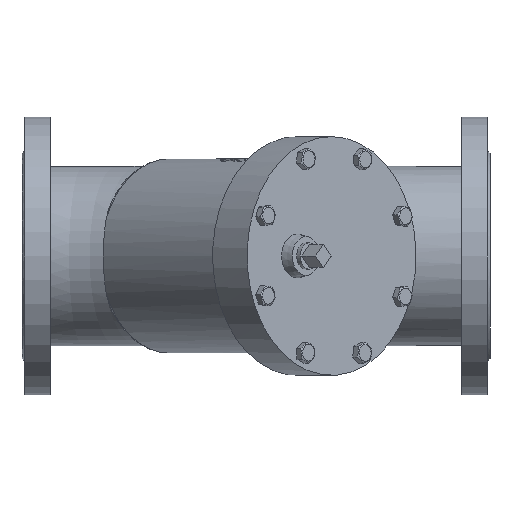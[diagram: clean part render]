
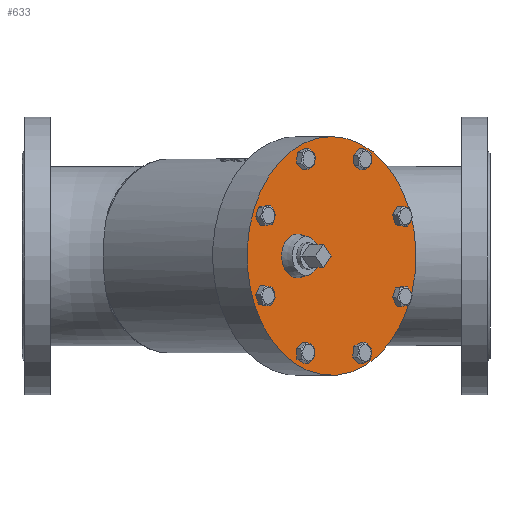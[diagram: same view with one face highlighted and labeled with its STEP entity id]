
A CAD part, front view. The second image highlights one B-rep face of the part: STEP entity #633.
In plain terms, the highlighted planar face has unit normal (0.707, -0.707, 0).
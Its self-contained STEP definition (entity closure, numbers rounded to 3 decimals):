
#633=ADVANCED_FACE('',(#9478,#9480,#9482,#9484,#9486,#9488,#9490,#9492,#9494,#9496),
#9498,.F.);
#9478=FACE_BOUND('',#9479,.T.);
#9479=EDGE_LOOP('',(#17220,#17221));
#9480=FACE_BOUND('',#9481,.T.);
#9481=EDGE_LOOP('',(#17222,#17223));
#9482=FACE_BOUND('',#9483,.T.);
#9483=EDGE_LOOP('',(#17224,#17225));
#9484=FACE_BOUND('',#9485,.T.);
#9485=EDGE_LOOP('',(#17226,#17227));
#9486=FACE_BOUND('',#9487,.T.);
#9487=EDGE_LOOP('',(#17228,#17229));
#9488=FACE_BOUND('',#9489,.T.);
#9489=EDGE_LOOP('',(#17230,#17231));
#9490=FACE_BOUND('',#9491,.T.);
#9491=EDGE_LOOP('',(#17232,#17233));
#9492=FACE_BOUND('',#9493,.T.);
#9493=EDGE_LOOP('',(#17234,#17235));
#9494=FACE_BOUND('',#9495,.T.);
#9495=EDGE_LOOP('',(#17236,#17237));
#9496=FACE_BOUND('',#9497,.T.);
#9497=EDGE_LOOP('',(#17238,#17239));
#9498=PLANE('',#9499);
#9499=AXIS2_PLACEMENT_3D('',#9500,#9501,#9502);
#9500=CARTESIAN_POINT('',(3272.315,1104.767,-101.));
#9501=DIRECTION('',(-0.707,0.707,0.));
#9502=DIRECTION('',(0.,0.,1.));
#17220=ORIENTED_EDGE('',*,*,#22687,.F.);
#17221=ORIENTED_EDGE('',*,*,#22686,.F.);
#17222=ORIENTED_EDGE('',*,*,#22819,.F.);
#17223=ORIENTED_EDGE('',*,*,#22820,.F.);
#17224=ORIENTED_EDGE('',*,*,#22821,.F.);
#17225=ORIENTED_EDGE('',*,*,#22822,.F.);
#17226=ORIENTED_EDGE('',*,*,#22823,.F.);
#17227=ORIENTED_EDGE('',*,*,#22824,.F.);
#17228=ORIENTED_EDGE('',*,*,#22777,.F.);
#17229=ORIENTED_EDGE('',*,*,#22778,.F.);
#17230=ORIENTED_EDGE('',*,*,#22748,.F.);
#17231=ORIENTED_EDGE('',*,*,#22749,.F.);
#17232=ORIENTED_EDGE('',*,*,#22719,.F.);
#17233=ORIENTED_EDGE('',*,*,#22720,.F.);
#17234=ORIENTED_EDGE('',*,*,#22690,.F.);
#17235=ORIENTED_EDGE('',*,*,#22691,.F.);
#17236=ORIENTED_EDGE('',*,*,#22825,.F.);
#17237=ORIENTED_EDGE('',*,*,#22826,.F.);
#17238=ORIENTED_EDGE('',*,*,#22827,.F.);
#17239=ORIENTED_EDGE('',*,*,#22828,.F.);
#22686=EDGE_CURVE('',#26389,#26390,#26391,.T.);
#22687=EDGE_CURVE('',#26390,#26389,#26392,.T.);
#22690=EDGE_CURVE('',#26397,#26398,#26399,.T.);
#22691=EDGE_CURVE('',#26398,#26397,#26400,.T.);
#22719=EDGE_CURVE('',#26449,#26450,#26451,.T.);
#22720=EDGE_CURVE('',#26450,#26449,#26452,.T.);
#22748=EDGE_CURVE('',#26501,#26502,#26503,.T.);
#22749=EDGE_CURVE('',#26502,#26501,#26504,.T.);
#22777=EDGE_CURVE('',#26553,#26554,#26555,.T.);
#22778=EDGE_CURVE('',#26554,#26553,#26556,.T.);
#22819=EDGE_CURVE('',#26627,#26628,#26629,.T.);
#22820=EDGE_CURVE('',#26628,#26627,#26630,.T.);
#22821=EDGE_CURVE('',#26631,#26632,#26633,.T.);
#22822=EDGE_CURVE('',#26632,#26631,#26634,.T.);
#22823=EDGE_CURVE('',#26635,#26636,#26637,.T.);
#22824=EDGE_CURVE('',#26636,#26635,#26638,.T.);
#22825=EDGE_CURVE('',#26639,#26640,#26641,.T.);
#22826=EDGE_CURVE('',#26640,#26639,#26642,.T.);
#22827=EDGE_CURVE('',#26643,#26644,#26645,.T.);
#22828=EDGE_CURVE('',#26644,#26643,#26646,.T.);
#26389=VERTEX_POINT('',#34353);
#26390=VERTEX_POINT('',#34354);
#26391=CIRCLE('',#34355,122.5);
#26392=CIRCLE('',#34359,122.5);
#26397=VERTEX_POINT('',#34373);
#26398=VERTEX_POINT('',#34374);
#26399=CIRCLE('',#34375,7.684);
#26400=CIRCLE('',#34379,7.684);
#26449=VERTEX_POINT('',#34732);
#26450=VERTEX_POINT('',#34733);
#26451=CIRCLE('',#34734,7.684);
#26452=CIRCLE('',#34738,7.684);
#26501=VERTEX_POINT('',#35087);
#26502=VERTEX_POINT('',#35088);
#26503=CIRCLE('',#35089,7.684);
#26504=CIRCLE('',#35093,7.684);
#26553=VERTEX_POINT('',#35446);
#26554=VERTEX_POINT('',#35447);
#26555=CIRCLE('',#35448,7.684);
#26556=CIRCLE('',#35452,7.684);
#26627=VERTEX_POINT('',#36201);
#26628=VERTEX_POINT('',#36202);
#26629=CIRCLE('',#36203,7.684);
#26630=CIRCLE('',#36207,7.684);
#26631=VERTEX_POINT('',#36211);
#26632=VERTEX_POINT('',#36212);
#26633=CIRCLE('',#36213,7.684);
#26634=CIRCLE('',#36217,7.684);
#26635=VERTEX_POINT('',#36221);
#26636=VERTEX_POINT('',#36222);
#26637=CIRCLE('',#36223,7.684);
#26638=CIRCLE('',#36227,7.684);
#26639=VERTEX_POINT('',#36231);
#26640=VERTEX_POINT('',#36232);
#26641=CIRCLE('',#36233,7.684);
#26642=CIRCLE('',#36237,7.684);
#26643=VERTEX_POINT('',#36241);
#26644=VERTEX_POINT('',#36242);
#26645=CIRCLE('',#36243,22.5);
#26646=CIRCLE('',#36247,22.5);
#34353=CARTESIAN_POINT('',(3272.315,1104.767,21.5));
#34354=CARTESIAN_POINT('',(3201.01,1033.463,-170.552));
#34355=AXIS2_PLACEMENT_3D('',#34356,#34357,#34358);
#34356=CARTESIAN_POINT('',(3272.315,1104.767,-101.));
#34357=DIRECTION('',(-0.707,0.707,0.));
#34358=DIRECTION('',(0.,0.,1.));
#34359=AXIS2_PLACEMENT_3D('',#34360,#34361,#34362);
#34360=CARTESIAN_POINT('',(3272.315,1104.767,-101.));
#34361=DIRECTION('',(-0.707,0.707,0.));
#34362=DIRECTION('',(-0.582,-0.582,-0.568));
#34373=CARTESIAN_POINT('',(3305.702,1138.154,-204.715));
#34374=CARTESIAN_POINT('',(3301.184,1133.637,-192.762));
#34375=AXIS2_PLACEMENT_3D('',#34376,#34377,#34378);
#34376=CARTESIAN_POINT('',(3301.184,1133.637,-200.446));
#34377=DIRECTION('',(0.707,-0.707,0.));
#34378=DIRECTION('',(0.588,0.588,-0.556));
#34379=AXIS2_PLACEMENT_3D('',#34380,#34381,#34382);
#34380=CARTESIAN_POINT('',(3301.184,1133.637,-200.446));
#34381=DIRECTION('',(0.707,-0.707,0.));
#34382=DIRECTION('',(0.,0.,1.));
#34732=CARTESIAN_POINT('',(3203.056,1035.508,-149.363));
#34733=CARTESIAN_POINT('',(3201.996,1034.449,-134.144));
#34734=AXIS2_PLACEMENT_3D('',#34735,#34736,#34737);
#34735=CARTESIAN_POINT('',(3201.996,1034.449,-141.828));
#34736=DIRECTION('',(0.707,-0.707,0.));
#34737=DIRECTION('',(0.138,0.138,-0.981));
#34738=AXIS2_PLACEMENT_3D('',#34739,#34740,#34741);
#34739=CARTESIAN_POINT('',(3201.996,1034.449,-141.828));
#34740=DIRECTION('',(0.707,-0.707,0.));
#34741=DIRECTION('',(0.,0.,1.));
#35087=CARTESIAN_POINT('',(3246.464,1078.916,4.834));
#35088=CARTESIAN_POINT('',(3243.445,1075.898,6.129));
#35089=AXIS2_PLACEMENT_3D('',#35090,#35091,#35092);
#35090=CARTESIAN_POINT('',(3243.445,1075.898,-1.554));
#35091=DIRECTION('',(0.707,-0.707,0.));
#35092=DIRECTION('',(0.393,0.393,0.831));
#35093=AXIS2_PLACEMENT_3D('',#35094,#35095,#35096);
#35094=CARTESIAN_POINT('',(3243.445,1075.898,-1.554));
#35095=DIRECTION('',(0.707,-0.707,0.));
#35096=DIRECTION('',(0.,0.,1.));
#35446=CARTESIAN_POINT('',(3347.962,1180.415,-58.673));
#35447=CARTESIAN_POINT('',(3342.634,1175.086,-52.489));
#35448=AXIS2_PLACEMENT_3D('',#35449,#35450,#35451);
#35449=CARTESIAN_POINT('',(3342.634,1175.086,-60.172));
#35450=DIRECTION('',(0.707,-0.707,0.));
#35451=DIRECTION('',(0.694,0.694,0.195));
#35452=AXIS2_PLACEMENT_3D('',#35453,#35454,#35455);
#35453=CARTESIAN_POINT('',(3342.634,1175.086,-60.172));
#35454=DIRECTION('',(0.707,-0.707,0.));
#35455=DIRECTION('',(0.,0.,1.));
#36201=CARTESIAN_POINT('',(3246.024,1078.477,-206.577));
#36202=CARTESIAN_POINT('',(3243.006,1075.458,-192.505));
#36203=AXIS2_PLACEMENT_3D('',#36204,#36205,#36206);
#36204=CARTESIAN_POINT('',(3243.006,1075.458,-200.188));
#36205=DIRECTION('',(0.707,-0.707,0.));
#36206=DIRECTION('',(0.393,0.393,-0.831));
#36207=AXIS2_PLACEMENT_3D('',#36208,#36209,#36210);
#36208=CARTESIAN_POINT('',(3243.006,1075.458,-200.188));
#36209=DIRECTION('',(0.707,-0.707,0.));
#36210=DIRECTION('',(0.,0.,1.));
#36211=CARTESIAN_POINT('',(3203.238,1035.691,-52.015));
#36212=CARTESIAN_POINT('',(3202.178,1034.631,-51.867));
#36213=AXIS2_PLACEMENT_3D('',#36214,#36215,#36216);
#36214=CARTESIAN_POINT('',(3202.178,1034.631,-59.551));
#36215=DIRECTION('',(0.707,-0.707,0.));
#36216=DIRECTION('',(0.138,0.138,0.981));
#36217=AXIS2_PLACEMENT_3D('',#36218,#36219,#36220);
#36218=CARTESIAN_POINT('',(3202.178,1034.631,-59.551));
#36219=DIRECTION('',(0.707,-0.707,0.));
#36220=DIRECTION('',(0.,0.,1.));
#36221=CARTESIAN_POINT('',(3306.141,1138.594,2.457));
#36222=CARTESIAN_POINT('',(3301.624,1134.076,5.872));
#36223=AXIS2_PLACEMENT_3D('',#36224,#36225,#36226);
#36224=CARTESIAN_POINT('',(3301.624,1134.076,-1.812));
#36225=DIRECTION('',(0.707,-0.707,0.));
#36226=DIRECTION('',(0.588,0.588,0.556));
#36227=AXIS2_PLACEMENT_3D('',#36228,#36229,#36230);
#36228=CARTESIAN_POINT('',(3301.624,1134.076,-1.812));
#36229=DIRECTION('',(0.707,-0.707,0.));
#36230=DIRECTION('',(0.,0.,1.));
#36231=CARTESIAN_POINT('',(3347.78,1180.233,-143.948));
#36232=CARTESIAN_POINT('',(3342.452,1174.904,-134.766));
#36233=AXIS2_PLACEMENT_3D('',#36234,#36235,#36236);
#36234=CARTESIAN_POINT('',(3342.452,1174.904,-142.449));
#36235=DIRECTION('',(0.707,-0.707,0.));
#36236=DIRECTION('',(0.694,0.694,-0.195));
#36237=AXIS2_PLACEMENT_3D('',#36238,#36239,#36240);
#36238=CARTESIAN_POINT('',(3342.452,1174.904,-142.449));
#36239=DIRECTION('',(0.707,-0.707,0.));
#36240=DIRECTION('',(0.,0.,1.));
#36241=CARTESIAN_POINT('',(3236.96,1069.412,-78.5));
#36242=CARTESIAN_POINT('',(3236.96,1069.412,-123.5));
#36243=AXIS2_PLACEMENT_3D('',#36244,#36245,#36246);
#36244=CARTESIAN_POINT('',(3236.96,1069.412,-101.));
#36245=DIRECTION('',(0.707,-0.707,0.));
#36246=DIRECTION('',(0.,0.,1.));
#36247=AXIS2_PLACEMENT_3D('',#36248,#36249,#36250);
#36248=CARTESIAN_POINT('',(3236.96,1069.412,-101.));
#36249=DIRECTION('',(0.707,-0.707,0.));
#36250=DIRECTION('',(0.,0.,-1.));
